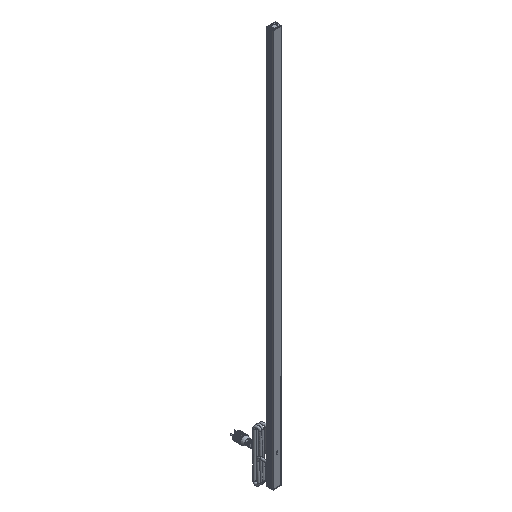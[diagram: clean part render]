
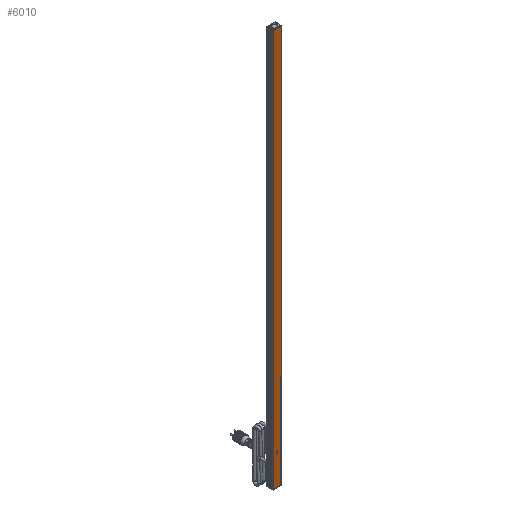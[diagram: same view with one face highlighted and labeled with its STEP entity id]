
A CAD part, isometric view. The second image highlights one B-rep face of the part: STEP entity #6010.
In plain terms, the highlighted planar face has unit normal (0, -1, 0).
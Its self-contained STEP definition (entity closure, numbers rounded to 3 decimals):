
#5732=CARTESIAN_POINT('',(18.421,0.,1778.0));
#5733=VERTEX_POINT('',#5732);
#5741=CARTESIAN_POINT('',(18.421,0.,0.0));
#5742=VERTEX_POINT('',#5741);
#5743=CARTESIAN_POINT('',(18.421,0.0,1778.0));
#5744=DIRECTION('',(0.0,0.0,-1.0));
#5745=VECTOR('',#5744,1778.0);
#5746=LINE('',#5743,#5745);
#5747=EDGE_CURVE('',#5733,#5742,#5746,.T.);
#5773=CARTESIAN_POINT('',(-18.421,0.,0.0));
#5774=VERTEX_POINT('',#5773);
#5775=CARTESIAN_POINT('',(-18.421,0.,0.0));
#5776=DIRECTION('',(1.0,0.0,0.0));
#5777=VECTOR('',#5776,36.842);
#5778=LINE('',#5775,#5777);
#5779=EDGE_CURVE('',#5774,#5742,#5778,.T.);
#5987=CARTESIAN_POINT('',(18.735,0.0,0.0));
#5988=DIRECTION('',(0.0,-1.0,0.0));
#5989=DIRECTION('',(0.0,0.0,-1.0));
#5990=AXIS2_PLACEMENT_3D('',#5987,#5988,#5989);
#5991=PLANE('',#5990);
#5992=ORIENTED_EDGE('',*,*,#5747,.F.);
#5993=CARTESIAN_POINT('',(-18.421,0.,1778.0));
#5994=VERTEX_POINT('',#5993);
#5995=CARTESIAN_POINT('',(18.421,0.,1778.0));
#5996=DIRECTION('',(-1.0,0.0,0.0));
#5997=VECTOR('',#5996,36.842);
#5998=LINE('',#5995,#5997);
#5999=EDGE_CURVE('',#5733,#5994,#5998,.T.);
#6000=ORIENTED_EDGE('',*,*,#5999,.T.);
#6001=CARTESIAN_POINT('',(-18.421,0.0,0.0));
#6002=DIRECTION('',(0.0,0.0,1.0));
#6003=VECTOR('',#6002,1778.0);
#6004=LINE('',#6001,#6003);
#6005=EDGE_CURVE('',#5774,#5994,#6004,.T.);
#6006=ORIENTED_EDGE('',*,*,#6005,.F.);
#6007=ORIENTED_EDGE('',*,*,#5779,.T.);
#6008=EDGE_LOOP('',(#5992,#6000,#6006,#6007));
#6009=FACE_OUTER_BOUND('',#6008,.T.);
#6010=ADVANCED_FACE('',(#6009),#5991,.T.);
